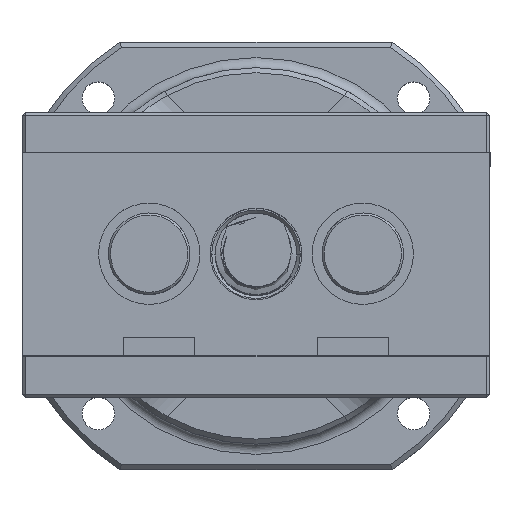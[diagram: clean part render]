
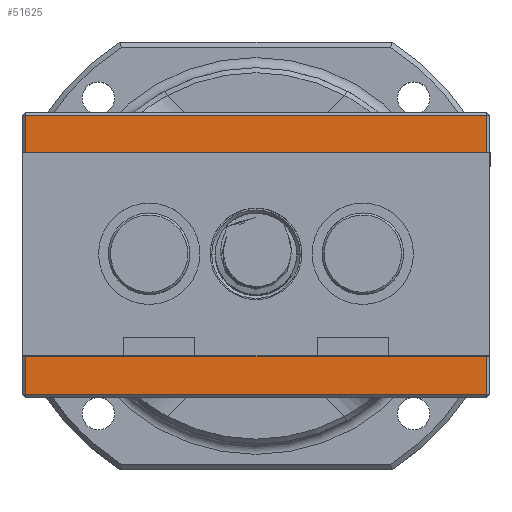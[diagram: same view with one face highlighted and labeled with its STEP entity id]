
A CAD part, top view. The second image highlights one B-rep face of the part: STEP entity #51625.
In plain terms, the highlighted planar face has unit normal (0, 0, 1).
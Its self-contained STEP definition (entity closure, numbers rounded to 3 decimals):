
#85 = EDGE_CURVE ( 'NONE', #18562, #19842, #35753, .T. ) ;
#306 = EDGE_CURVE ( 'NONE', #34700, #28297, #7238, .T. ) ;
#1704 = EDGE_CURVE ( 'NONE', #19842, #34700, #40736, .T. ) ;
#2018 = EDGE_CURVE ( 'NONE', #32005, #55946, #13182, .T. ) ;
#2413 = AXIS2_PLACEMENT_3D ( 'NONE', #15414, #15322, #15402 ) ;
#3379 = VECTOR ( 'NONE', #27115, 1000. ) ;
#3598 = EDGE_CURVE ( 'NONE', #32641, #70742, #7594, .T. ) ;
#4083 = CARTESIAN_POINT ( 'NONE',  ( -10.5, 14., 26. ) ) ;
#4324 = DIRECTION ( 'NONE',  ( -1., 0., 0. ) ) ;
#4411 = DIRECTION ( 'NONE',  ( 0., 0., 1. ) ) ;
#4651 = FACE_BOUND ( 'NONE', #57813, .T. ) ;
#5223 = DIRECTION ( 'NONE',  ( -1., 0., 0. ) ) ;
#6366 = ORIENTED_EDGE ( 'NONE', *, *, #35850, .F. ) ;
#7238 = LINE ( 'NONE', #8236, #9939 ) ;
#7594 = CIRCLE ( 'NONE', #28791, 4. ) ;
#8072 = DIRECTION ( 'NONE',  ( 0., -1., 0. ) ) ;
#8236 = CARTESIAN_POINT ( 'NONE',  ( -22.7, 0., 26. ) ) ;
#9939 = VECTOR ( 'NONE', #8072, 1000. ) ;
#11521 = EDGE_LOOP ( 'NONE', ( #66846, #36923, #35664, #30081 ) ) ;
#12837 = CARTESIAN_POINT ( 'NONE',  ( 13.989, 15.957, 26. ) ) ;
#13182 = CIRCLE ( 'NONE', #60666, 6.25 ) ;
#15322 = DIRECTION ( 'NONE',  ( 0., 0., 1. ) ) ;
#15402 = DIRECTION ( 'NONE',  ( 1., 0., 0. ) ) ;
#15414 = CARTESIAN_POINT ( 'NONE',  ( 10.5, 14., 26. ) ) ;
#15835 = EDGE_CURVE ( 'NONE', #28297, #18562, #34604, .T. ) ;
#15969 = CARTESIAN_POINT ( 'NONE',  ( 22.7, 27.7, 26. ) ) ;
#16728 = DIRECTION ( 'NONE',  ( -1., 0., 0. ) ) ;
#17435 = VERTEX_POINT ( 'NONE', #22556 ) ;
#17655 = AXIS2_PLACEMENT_3D ( 'NONE', #70533, #38364, #5223 ) ;
#18487 = AXIS2_PLACEMENT_3D ( 'NONE', #27976, #65774, #33542 ) ;
#18562 = VERTEX_POINT ( 'NONE', #63597 ) ;
#19272 = FACE_BOUND ( 'NONE', #27285, .T. ) ;
#19842 = VERTEX_POINT ( 'NONE', #15969 ) ;
#20471 = EDGE_CURVE ( 'NONE', #17435, #70769, #51256, .T. ) ;
#22556 = CARTESIAN_POINT ( 'NONE',  ( 7.011, 12.043, 26. ) ) ;
#24832 = EDGE_CURVE ( 'NONE', #70769, #17435, #59792, .T. ) ;
#26127 = CARTESIAN_POINT ( 'NONE',  ( -13.98, 15.972, 26. ) ) ;
#27115 = DIRECTION ( 'NONE',  ( 1., 0., 0. ) ) ;
#27285 = EDGE_LOOP ( 'NONE', ( #6366, #54778 ) ) ;
#27882 = AXIS2_PLACEMENT_3D ( 'NONE', #40066, #40142, #40222 ) ;
#27976 = CARTESIAN_POINT ( 'NONE',  ( 0., 14., 26. ) ) ;
#28297 = VERTEX_POINT ( 'NONE', #61520 ) ;
#28791 = AXIS2_PLACEMENT_3D ( 'NONE', #4083, #4411, #4324 ) ;
#29495 = CARTESIAN_POINT ( 'NONE',  ( 22.7, 0., 26. ) ) ;
#30081 = ORIENTED_EDGE ( 'NONE', *, *, #85, .T. ) ;
#30164 = DIRECTION ( 'NONE',  ( 0., 1., 0. ) ) ;
#30554 = DIRECTION ( 'NONE',  ( -1., 0., 0. ) ) ;
#32005 = VERTEX_POINT ( 'NONE', #54558 ) ;
#32641 = VERTEX_POINT ( 'NONE', #26127 ) ;
#32740 = CARTESIAN_POINT ( 'NONE',  ( -23., 0.3, 26. ) ) ;
#33542 = DIRECTION ( 'NONE',  ( 1., 0., 0. ) ) ;
#34074 = VECTOR ( 'NONE', #30554, 1000. ) ;
#34149 = FACE_OUTER_BOUND ( 'NONE', #11521, .T. ) ;
#34604 = LINE ( 'NONE', #32740, #3379 ) ;
#34700 = VERTEX_POINT ( 'NONE', #62288 ) ;
#34954 = CARTESIAN_POINT ( 'NONE',  ( -23., 27.7, 26. ) ) ;
#35664 = ORIENTED_EDGE ( 'NONE', *, *, #15835, .T. ) ;
#35753 = LINE ( 'NONE', #29495, #37478 ) ;
#35850 = EDGE_CURVE ( 'NONE', #70742, #32641, #51665, .T. ) ;
#36923 = ORIENTED_EDGE ( 'NONE', *, *, #306, .T. ) ;
#37478 = VECTOR ( 'NONE', #30164, 1000. ) ;
#38364 = DIRECTION ( 'NONE',  ( 0., 0., 1. ) ) ;
#40066 = CARTESIAN_POINT ( 'NONE',  ( 10.5, 14., 26. ) ) ;
#40142 = DIRECTION ( 'NONE',  ( 0., 0., 1. ) ) ;
#40222 = DIRECTION ( 'NONE',  ( 1., 0., 0. ) ) ;
#40736 = LINE ( 'NONE', #34954, #34074 ) ;
#44230 = PLANE ( 'NONE',  #44807 ) ;
#44542 = EDGE_CURVE ( 'NONE', #55946, #32005, #58065, .T. ) ;
#44807 = AXIS2_PLACEMENT_3D ( 'NONE', #54793, #49640, #16728 ) ;
#46829 = FACE_BOUND ( 'NONE', #63318, .T. ) ;
#49640 = DIRECTION ( 'NONE',  ( 0., 0., -1. ) ) ;
#51172 = ORIENTED_EDGE ( 'NONE', *, *, #24832, .F. ) ;
#51226 = CARTESIAN_POINT ( 'NONE',  ( 0., 14., 26. ) ) ;
#51256 = CIRCLE ( 'NONE', #2413, 4. ) ;
#51447 = DIRECTION ( 'NONE',  ( 0., 0., 1. ) ) ;
#51625 = ADVANCED_FACE ( 'NONE', ( #34149, #19272, #4651, #46829 ), #44230, .F. ) ;
#51665 = CIRCLE ( 'NONE', #17655, 4. ) ;
#51753 = DIRECTION ( 'NONE',  ( 1., 0., 0. ) ) ;
#54558 = CARTESIAN_POINT ( 'NONE',  ( 6.25, 14., 26. ) ) ;
#54778 = ORIENTED_EDGE ( 'NONE', *, *, #3598, .F. ) ;
#54793 = CARTESIAN_POINT ( 'NONE',  ( -23., 0., 26. ) ) ;
#55946 = VERTEX_POINT ( 'NONE', #60000 ) ;
#56122 = ORIENTED_EDGE ( 'NONE', *, *, #20471, .F. ) ;
#56595 = CARTESIAN_POINT ( 'NONE',  ( -7.02, 12.028, 26. ) ) ;
#57813 = EDGE_LOOP ( 'NONE', ( #56122, #51172 ) ) ;
#58065 = CIRCLE ( 'NONE', #18487, 6.25 ) ;
#59792 = CIRCLE ( 'NONE', #27882, 4. ) ;
#60000 = CARTESIAN_POINT ( 'NONE',  ( -6.25, 14., 26. ) ) ;
#60574 = ORIENTED_EDGE ( 'NONE', *, *, #44542, .F. ) ;
#60666 = AXIS2_PLACEMENT_3D ( 'NONE', #51226, #51447, #51753 ) ;
#61520 = CARTESIAN_POINT ( 'NONE',  ( -22.7, 0.3, 26. ) ) ;
#62288 = CARTESIAN_POINT ( 'NONE',  ( -22.7, 27.7, 26. ) ) ;
#63318 = EDGE_LOOP ( 'NONE', ( #67552, #60574 ) ) ;
#63597 = CARTESIAN_POINT ( 'NONE',  ( 22.7, 0.3, 26. ) ) ;
#65774 = DIRECTION ( 'NONE',  ( 0., 0., 1. ) ) ;
#66846 = ORIENTED_EDGE ( 'NONE', *, *, #1704, .T. ) ;
#67552 = ORIENTED_EDGE ( 'NONE', *, *, #2018, .F. ) ;
#70533 = CARTESIAN_POINT ( 'NONE',  ( -10.5, 14., 26. ) ) ;
#70742 = VERTEX_POINT ( 'NONE', #56595 ) ;
#70769 = VERTEX_POINT ( 'NONE', #12837 ) ;
